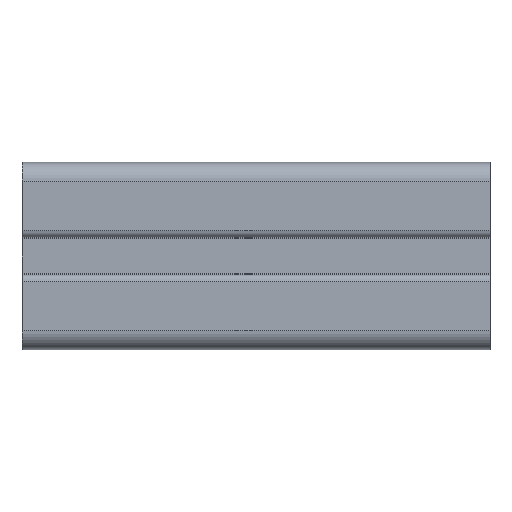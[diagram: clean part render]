
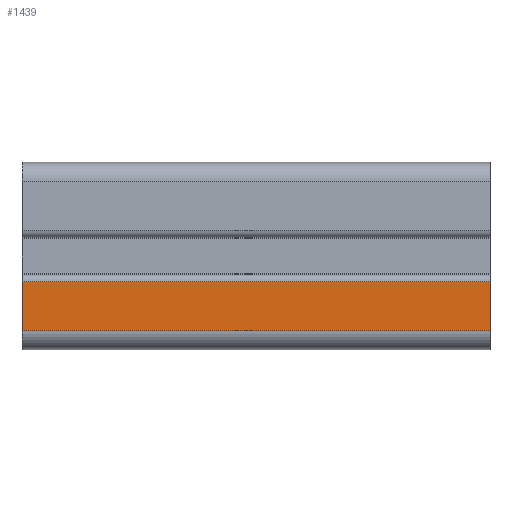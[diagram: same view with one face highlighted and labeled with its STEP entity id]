
A CAD part, left-side view. The second image highlights one B-rep face of the part: STEP entity #1439.
In plain terms, the highlighted planar face has unit normal (-1, 0, 0).
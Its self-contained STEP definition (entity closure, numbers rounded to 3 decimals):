
#198 = DIRECTION ( 'NONE',  ( 0., -1., 0. ) ) ;
#231 = VECTOR ( 'NONE', #1638, 1000. ) ;
#282 = VERTEX_POINT ( 'NONE', #3751 ) ;
#357 = DIRECTION ( 'NONE',  ( 0., -1., 0. ) ) ;
#422 = EDGE_LOOP ( 'NONE', ( #1866, #4788, #4532, #753 ) ) ;
#461 = EDGE_CURVE ( 'NONE', #1941, #474, #2044, .T. ) ;
#474 = VERTEX_POINT ( 'NONE', #4776 ) ;
#606 = DIRECTION ( 'NONE',  ( 1., 0., 0. ) ) ;
#753 = ORIENTED_EDGE ( 'NONE', *, *, #3119, .T. ) ;
#773 = VECTOR ( 'NONE', #1794, 1000. ) ;
#781 = VECTOR ( 'NONE', #357, 1000. ) ;
#917 = AXIS2_PLACEMENT_3D ( 'NONE', #3315, #606, #4991 ) ;
#1329 = CARTESIAN_POINT ( 'NONE',  ( -20., -50., -16. ) ) ;
#1439 = ADVANCED_FACE ( 'NONE', ( #4935 ), #3425, .F. ) ;
#1597 = LINE ( 'NONE', #3883, #781 ) ;
#1638 = DIRECTION ( 'NONE',  ( 0., 0., 1. ) ) ;
#1794 = DIRECTION ( 'NONE',  ( 0., 0., 1. ) ) ;
#1866 = ORIENTED_EDGE ( 'NONE', *, *, #461, .T. ) ;
#1941 = VERTEX_POINT ( 'NONE', #1329 ) ;
#1972 = CARTESIAN_POINT ( 'NONE',  ( -20., -50., -16. ) ) ;
#2044 = LINE ( 'NONE', #1972, #231 ) ;
#2177 = LINE ( 'NONE', #3757, #4893 ) ;
#3119 = EDGE_CURVE ( 'NONE', #282, #1941, #2177, .T. ) ;
#3315 = CARTESIAN_POINT ( 'NONE',  ( -20., 50., -16. ) ) ;
#3425 = PLANE ( 'NONE',  #917 ) ;
#3614 = CARTESIAN_POINT ( 'NONE',  ( -20., 50., -5.5 ) ) ;
#3751 = CARTESIAN_POINT ( 'NONE',  ( -20., 50., -16. ) ) ;
#3757 = CARTESIAN_POINT ( 'NONE',  ( -20., 50., -16. ) ) ;
#3779 = LINE ( 'NONE', #4992, #773 ) ;
#3883 = CARTESIAN_POINT ( 'NONE',  ( -20., 50., -5.5 ) ) ;
#4172 = EDGE_CURVE ( 'NONE', #282, #4891, #3779, .T. ) ;
#4287 = EDGE_CURVE ( 'NONE', #4891, #474, #1597, .T. ) ;
#4532 = ORIENTED_EDGE ( 'NONE', *, *, #4172, .F. ) ;
#4776 = CARTESIAN_POINT ( 'NONE',  ( -20., -50., -5.5 ) ) ;
#4788 = ORIENTED_EDGE ( 'NONE', *, *, #4287, .F. ) ;
#4891 = VERTEX_POINT ( 'NONE', #3614 ) ;
#4893 = VECTOR ( 'NONE', #198, 1000. ) ;
#4935 = FACE_OUTER_BOUND ( 'NONE', #422, .T. ) ;
#4991 = DIRECTION ( 'NONE',  ( 0., 0., -1. ) ) ;
#4992 = CARTESIAN_POINT ( 'NONE',  ( -20., 50., -16. ) ) ;
